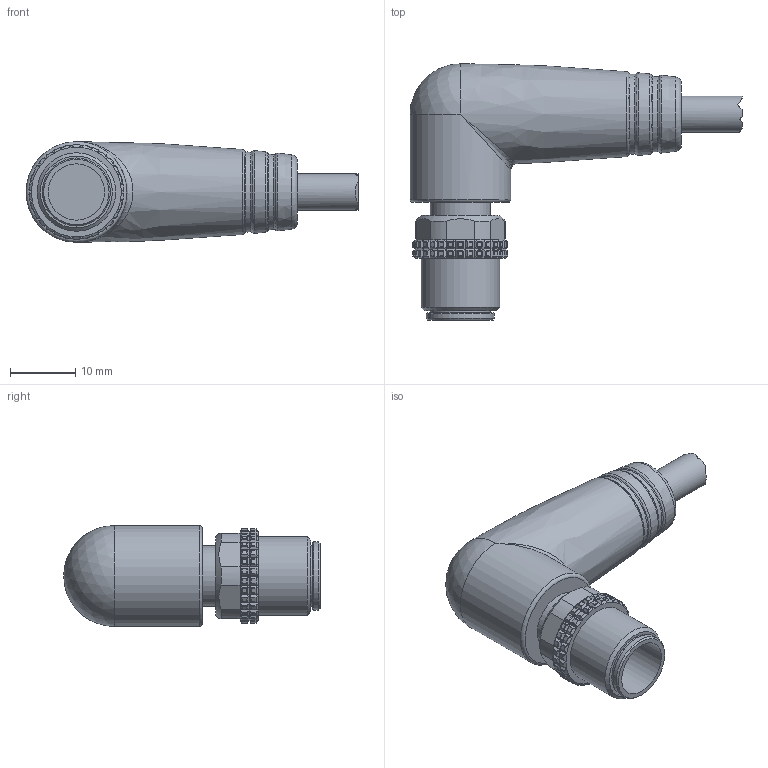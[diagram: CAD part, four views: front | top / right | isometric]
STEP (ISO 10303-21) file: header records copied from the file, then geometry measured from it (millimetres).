
FILE_DESCRIPTION((''),'2;1');
FILE_NAME('C:\Users\enrico\Desktop\Ale\Sito\AUTOMAZIONE_2020\FOTO & STEP Connettori circolari per sensori e attuatori\Singola testa\Step\M12 Ma ang 8 poli.stp','2020-06-29T09:58:41',('Tecnico2'),(''),'Autodesk Inventor 2012','Autodesk Inventor 2012','');
FILE_SCHEMA(('AUTOMOTIVE_DESIGN { 1 0 10303 214 1 1 1 1 }'));
Length unit declared in the file: millimetre
Products named in the file (3): C12M8B2; ghiera M12_MA_NON TECNICO
Assembly tree (2 placements, depth 2):
  C12M8B2
    C12M8B2
    ghiera M12_MA_NON TECNICO
Bounding box: 50.76 x 39.2 x 15.4 mm (x, y, z)
Volume: 8698.7 mm3; surface area: 4768.3 mm2
Topology: 2 solids, 2 shells, 1178 faces, 2698 edges, 1527 vertices
Faces by surface type: cylinder 517, plane 400, sphere 241, torus 10, bspline 6, cone 4
Full cylindrical faces by diameter (mm): 5.536 x1, 8.6 x1, 9.2 x1, 10 x1, 10.4 x1, 12 x1, 15.4 x1
Entity records: 32811 total; most frequent: DIRECTION 6283, CARTESIAN_POINT 5658, ORIENTED_EDGE 5332, EDGE_CURVE 2666, AXIS2_PLACEMENT_3D 2448, VERTEX_POINT 1523, VECTOR 1387, LINE 1387
